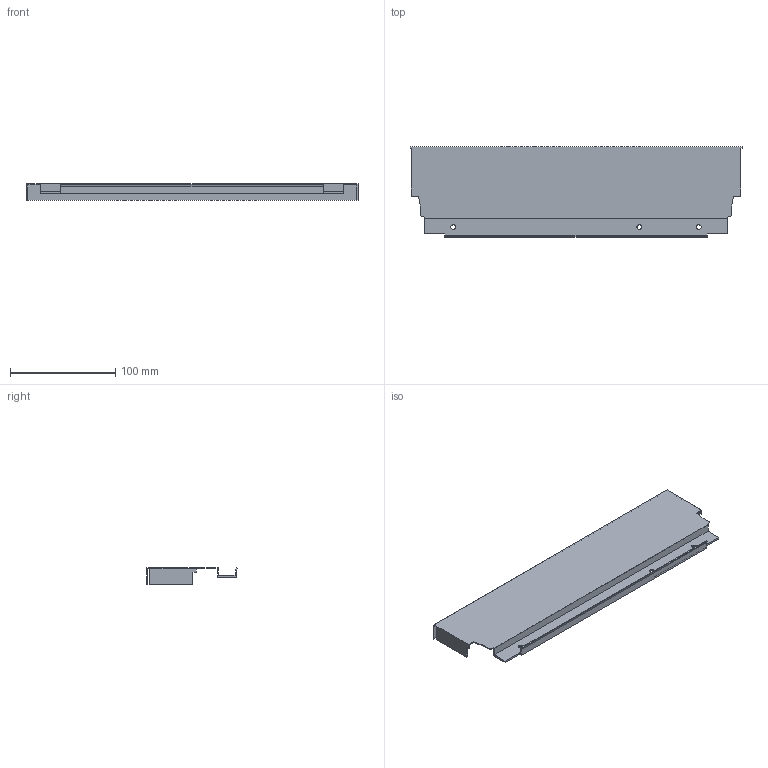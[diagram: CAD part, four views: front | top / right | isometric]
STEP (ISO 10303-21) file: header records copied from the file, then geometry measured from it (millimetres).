
FILE_DESCRIPTION (( 'STEP AP214' ), '1' );
FILE_NAME ('_DWD_XP Stahlrückwand_H86_KAB400_S18.step', '2010-07-08T12:10:18', ( 'grass' ), ( '' ), 'SwSTEP 2.0', 'SolidWorks 2010', '' );
FILE_SCHEMA (( 'AUTOMOTIVE_DESIGN' ));
Length unit declared in the file: millimetre
Products named in the file (1): _DWD_XP Stahlrückwand_H86_KAB400_S18
Bounding box: 315 x 85.79 x 16 mm (x, y, z)
Volume: 33121.1 mm3; surface area: 72772.2 mm2
Topology: 1 solids, 1 shells, 50 faces, 144 edges, 96 vertices
Faces by surface type: plane 44, cylinder 6
Entity records: 1666 total; most frequent: CARTESIAN_POINT 291, ORIENTED_EDGE 288, DIRECTION 258, EDGE_CURVE 144, VECTOR 132, LINE 132, VERTEX_POINT 96, AXIS2_PLACEMENT_3D 63
